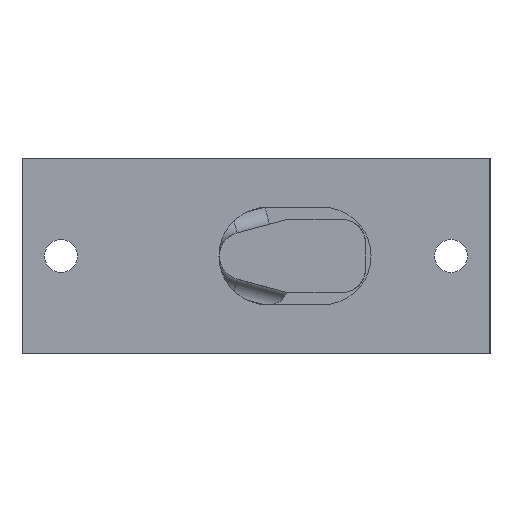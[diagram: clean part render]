
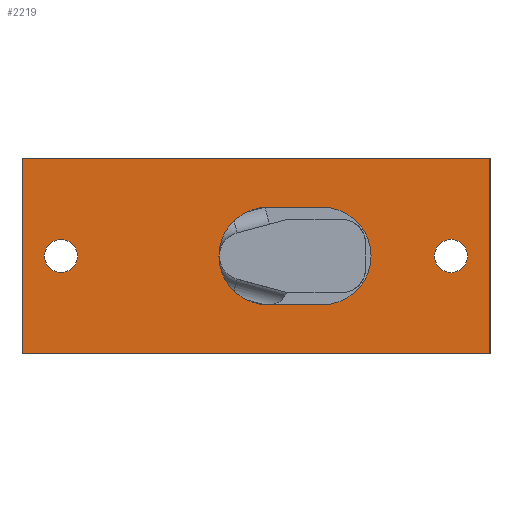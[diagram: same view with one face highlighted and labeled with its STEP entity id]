
A CAD part, front view. The second image highlights one B-rep face of the part: STEP entity #2219.
In plain terms, the highlighted planar face has unit normal (0, -1, 0).
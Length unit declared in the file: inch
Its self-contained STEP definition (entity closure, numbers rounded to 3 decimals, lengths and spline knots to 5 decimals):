
#289 = CARTESIAN_POINT ( 'NONE',  ( 1., -0.188, 0. ) ) ;
#312 = DIRECTION ( 'NONE',  ( 0., 1., 0. ) ) ;
#325 = DIRECTION ( 'NONE',  ( 0., 0., 1. ) ) ;
#985 = DIRECTION ( 'NONE',  ( 0., 0., 1. ) ) ;
#1009 = DIRECTION ( 'NONE',  ( 0., 1., 0. ) ) ;
#1037 = CARTESIAN_POINT ( 'NONE',  ( 0., -0.188, 0. ) ) ;
#1038 = PLANE ( 'NONE',  #4076 ) ;
#1284 = CIRCLE ( 'NONE', #2029, 0.085 ) ;
#1343 = CIRCLE ( 'NONE', #2038, 0.085 ) ;
#1368 = LINE ( 'NONE', #5893, #1411 ) ;
#1369 = VECTOR ( 'NONE', #5962, 39.37008 ) ;
#1393 = LINE ( 'NONE', #5981, #1428 ) ;
#1394 = CIRCLE ( 'NONE', #2081, 0.085 ) ;
#1397 = LINE ( 'NONE', #5968, #1369 ) ;
#1406 = LINE ( 'NONE', #5917, #1414 ) ;
#1411 = VECTOR ( 'NONE', #5905, 39.37008 ) ;
#1414 = VECTOR ( 'NONE', #5889, 39.37008 ) ;
#1428 = VECTOR ( 'NONE', #5984, 39.37008 ) ;
#1431 = LINE ( 'NONE', #6101, #1445 ) ;
#1445 = VECTOR ( 'NONE', #6070, 39.37008 ) ;
#1448 = VECTOR ( 'NONE', #6090, 39.37008 ) ;
#1468 = CIRCLE ( 'NONE', #2107, 0.25 ) ;
#1475 = CIRCLE ( 'NONE', #2057, 0.25 ) ;
#1479 = LINE ( 'NONE', #6080, #1448 ) ;
#1483 = CIRCLE ( 'NONE', #2103, 0.085 ) ;
#2029 = AXIS2_PLACEMENT_3D ( 'NONE', #289, #312, #325 ) ;
#2038 = AXIS2_PLACEMENT_3D ( 'NONE', #5739, #5740, #5720 ) ;
#2057 = AXIS2_PLACEMENT_3D ( 'NONE', #6083, #6059, #6066 ) ;
#2081 = AXIS2_PLACEMENT_3D ( 'NONE', #5971, #5935, #5969 ) ;
#2103 = AXIS2_PLACEMENT_3D ( 'NONE', #6088, #6089, #6081 ) ;
#2107 = AXIS2_PLACEMENT_3D ( 'NONE', #6067, #6086, #6073 ) ;
#2219 = ADVANCED_FACE ( 'NONE', ( #6438, #6427, #6431, #6433 ), #1038, .F. ) ;
#3295 = EDGE_CURVE ( 'NONE', #4932, #4883, #1284, .T. ) ;
#3339 = EDGE_CURVE ( 'NONE', #4947, #4974, #1343, .T. ) ;
#3373 = EDGE_CURVE ( 'NONE', #4877, #4892, #1368, .T. ) ;
#3374 = EDGE_CURVE ( 'NONE', #4968, #4877, #1406, .T. ) ;
#3388 = EDGE_CURVE ( 'NONE', #4883, #4932, #1394, .T. ) ;
#3391 = EDGE_CURVE ( 'NONE', #5060, #4985, #1397, .T. ) ;
#3393 = EDGE_CURVE ( 'NONE', #4892, #4903, #1393, .T. ) ;
#3420 = EDGE_CURVE ( 'NONE', #4926, #4995, #1479, .T. ) ;
#3421 = EDGE_CURVE ( 'NONE', #4985, #4926, #1475, .T. ) ;
#3423 = EDGE_CURVE ( 'NONE', #4995, #5060, #1468, .T. ) ;
#3424 = EDGE_CURVE ( 'NONE', #4903, #4968, #1431, .T. ) ;
#3425 = EDGE_CURVE ( 'NONE', #4974, #4947, #1483, .T. ) ;
#4076 = AXIS2_PLACEMENT_3D ( 'NONE', #1037, #1009, #985 ) ;
#4317 = ORIENTED_EDGE ( 'NONE', *, *, #3420, .T. ) ;
#4360 = ORIENTED_EDGE ( 'NONE', *, *, #3374, .F. ) ;
#4376 = ORIENTED_EDGE ( 'NONE', *, *, #3423, .T. ) ;
#4409 = ORIENTED_EDGE ( 'NONE', *, *, #3391, .T. ) ;
#4423 = ORIENTED_EDGE ( 'NONE', *, *, #3421, .T. ) ;
#4424 = ORIENTED_EDGE ( 'NONE', *, *, #3388, .T. ) ;
#4444 = ORIENTED_EDGE ( 'NONE', *, *, #3425, .T. ) ;
#4457 = ORIENTED_EDGE ( 'NONE', *, *, #3373, .F. ) ;
#4460 = ORIENTED_EDGE ( 'NONE', *, *, #3424, .F. ) ;
#4461 = ORIENTED_EDGE ( 'NONE', *, *, #3339, .T. ) ;
#4476 = ORIENTED_EDGE ( 'NONE', *, *, #3393, .F. ) ;
#4477 = ORIENTED_EDGE ( 'NONE', *, *, #3295, .T. ) ;
#4623 = EDGE_LOOP ( 'NONE', ( #4317, #4376, #4409, #4423 ) ) ;
#4658 = EDGE_LOOP ( 'NONE', ( #4457, #4360, #4460, #4476 ) ) ;
#4664 = EDGE_LOOP ( 'NONE', ( #4444, #4461 ) ) ;
#4671 = EDGE_LOOP ( 'NONE', ( #4424, #4477 ) ) ;
#4877 = VERTEX_POINT ( 'NONE', #5340 ) ;
#4883 = VERTEX_POINT ( 'NONE', #5281 ) ;
#4892 = VERTEX_POINT ( 'NONE', #5260 ) ;
#4903 = VERTEX_POINT ( 'NONE', #5333 ) ;
#4926 = VERTEX_POINT ( 'NONE', #5349 ) ;
#4932 = VERTEX_POINT ( 'NONE', #5238 ) ;
#4947 = VERTEX_POINT ( 'NONE', #5357 ) ;
#4968 = VERTEX_POINT ( 'NONE', #5387 ) ;
#4974 = VERTEX_POINT ( 'NONE', #5373 ) ;
#4985 = VERTEX_POINT ( 'NONE', #5381 ) ;
#4995 = VERTEX_POINT ( 'NONE', #5445 ) ;
#5060 = VERTEX_POINT ( 'NONE', #5426 ) ;
#5238 = CARTESIAN_POINT ( 'NONE',  ( 1., -0.188, -0.085 ) ) ;
#5260 = CARTESIAN_POINT ( 'NONE',  ( -1.2, -0.188, 0.5 ) ) ;
#5281 = CARTESIAN_POINT ( 'NONE',  ( 1., -0.188, 0.085 ) ) ;
#5333 = CARTESIAN_POINT ( 'NONE',  ( 1.2, -0.188, 0.5 ) ) ;
#5340 = CARTESIAN_POINT ( 'NONE',  ( -1.2, -0.188, -0.5 ) ) ;
#5349 = CARTESIAN_POINT ( 'NONE',  ( 0.06, -0.188, 0.25 ) ) ;
#5357 = CARTESIAN_POINT ( 'NONE',  ( -1., -0.188, -0.085 ) ) ;
#5373 = CARTESIAN_POINT ( 'NONE',  ( -1., -0.188, 0.085 ) ) ;
#5381 = CARTESIAN_POINT ( 'NONE',  ( 0.06, -0.188, -0.25 ) ) ;
#5387 = CARTESIAN_POINT ( 'NONE',  ( 1.2, -0.188, -0.5 ) ) ;
#5426 = CARTESIAN_POINT ( 'NONE',  ( 0.34, -0.188, -0.25 ) ) ;
#5445 = CARTESIAN_POINT ( 'NONE',  ( 0.34, -0.188, 0.25 ) ) ;
#5720 = DIRECTION ( 'NONE',  ( 0., 0., 1. ) ) ;
#5739 = CARTESIAN_POINT ( 'NONE',  ( -1., -0.188, 0. ) ) ;
#5740 = DIRECTION ( 'NONE',  ( 0., 1., 0. ) ) ;
#5889 = DIRECTION ( 'NONE',  ( -1., 0., 0. ) ) ;
#5893 = CARTESIAN_POINT ( 'NONE',  ( -1.2, -0.188, -0.5 ) ) ;
#5905 = DIRECTION ( 'NONE',  ( 0., 0., 1. ) ) ;
#5917 = CARTESIAN_POINT ( 'NONE',  ( -1.2, -0.188, -0.5 ) ) ;
#5935 = DIRECTION ( 'NONE',  ( 0., 1., 0. ) ) ;
#5962 = DIRECTION ( 'NONE',  ( -1., 0., 0. ) ) ;
#5968 = CARTESIAN_POINT ( 'NONE',  ( 0.34, -0.188, -0.25 ) ) ;
#5969 = DIRECTION ( 'NONE',  ( 0., 0., 1. ) ) ;
#5971 = CARTESIAN_POINT ( 'NONE',  ( 1., -0.188, 0. ) ) ;
#5981 = CARTESIAN_POINT ( 'NONE',  ( -1.2, -0.188, 0.5 ) ) ;
#5984 = DIRECTION ( 'NONE',  ( 1., 0., 0. ) ) ;
#6059 = DIRECTION ( 'NONE',  ( 0., 1., 0. ) ) ;
#6066 = DIRECTION ( 'NONE',  ( 0., 0., 1. ) ) ;
#6067 = CARTESIAN_POINT ( 'NONE',  ( 0.34, -0.188, 0. ) ) ;
#6070 = DIRECTION ( 'NONE',  ( 0., 0., -1. ) ) ;
#6073 = DIRECTION ( 'NONE',  ( 0., 0., 1. ) ) ;
#6080 = CARTESIAN_POINT ( 'NONE',  ( 0.06, -0.188, 0.25 ) ) ;
#6081 = DIRECTION ( 'NONE',  ( 0., 0., 1. ) ) ;
#6083 = CARTESIAN_POINT ( 'NONE',  ( 0.06, -0.188, 0. ) ) ;
#6086 = DIRECTION ( 'NONE',  ( 0., 1., 0. ) ) ;
#6088 = CARTESIAN_POINT ( 'NONE',  ( -1., -0.188, 0. ) ) ;
#6089 = DIRECTION ( 'NONE',  ( 0., 1., 0. ) ) ;
#6090 = DIRECTION ( 'NONE',  ( 1., 0., 0. ) ) ;
#6101 = CARTESIAN_POINT ( 'NONE',  ( 1.2, -0.188, -0.5 ) ) ;
#6427 = FACE_BOUND ( 'NONE', #4671, .T. ) ;
#6431 = FACE_BOUND ( 'NONE', #4664, .T. ) ;
#6433 = FACE_OUTER_BOUND ( 'NONE', #4658, .T. ) ;
#6438 = FACE_BOUND ( 'NONE', #4623, .T. ) ;
